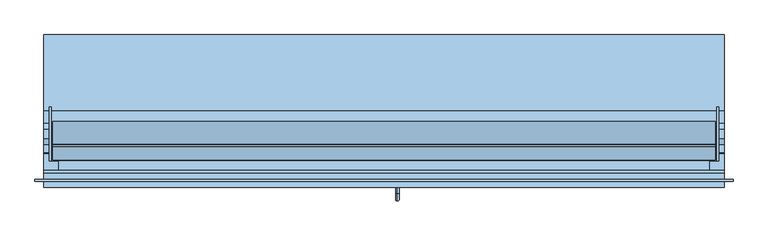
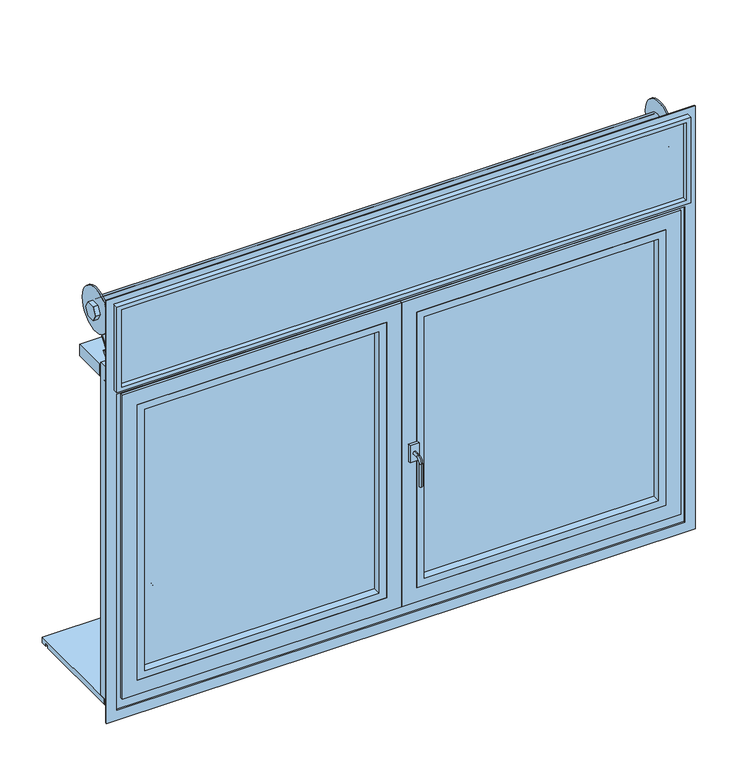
"""IFC4 building model written with IfcOpenShell, lengths in millimetres: window geometry, Ventana monoblock practicable, 2 hojas sin cajon para poner emparchado : CA-02. SALÓN - DORMITORIO SUR."""

from ifc_helpers import new_model, si_unit, point, frame, frame_2d, origin, place, context, project, spatial, polyline, circle_curve, ellipse_curve, trimmed, segment, composite_curve, outline, extrude, faceted_brep, source, transform, mapped, element, save
from ifc_brep_helpers import plane_surface, cylinder_surface, revolved_surface, advanced_brep


def window_6fa71baf(model_context):
    return source(origin(), model_context, "Body", "SolidModel", [
        extrude(outline(polyline([(935.0, -120.0), (935.0, -135.0), (-935.0, -135.0), (-935.0, -120.0), (935.0, -120.0)])), frame((0.0, 0.0, 2050.0), z_axis=(0.0, 0.0, 1.0), x_axis=(1.0, 0.0, 0.0)), (0.0, 0.0, 1.0), 270.0),
        faceted_brep([(-950.0, -110.0, 2335.0), (-950.0, -150.0, 2335.0), (950.0, -150.0, 2335.0), (950.0, -110.0, 2335.0), (-920.0, -120.0, 2305.0), (-920.0, -110.0, 2305.0), (920.0, -110.0, 2305.0), (920.0, -120.0, 2305.0), (-935.0, -150.0, 2320.0), (-935.0, -120.0, 2320.0), (935.0, -120.0, 2320.0), (935.0, -150.0, 2320.0), (950.0, -150.0, 2035.0), (950.0, -110.0, 2035.0), (920.0, -110.0, 2065.0), (920.0, -120.0, 2065.0), (935.0, -120.0, 2050.0), (935.0, -150.0, 2050.0), (-950.0, -150.0, 2035.0), (-950.0, -110.0, 2035.0), (-920.0, -110.0, 2065.0), (-920.0, -120.0, 2065.0), (-935.0, -120.0, 2050.0), (-935.0, -150.0, 2050.0)], [[[0, 1, 2, 3]], [[4, 5, 6, 7]], [[8, 9, 10, 11]], [[3, 2, 12, 13]], [[7, 6, 14, 15]], [[11, 10, 16, 17]], [[13, 12, 18, 19]], [[15, 14, 20, 21]], [[17, 16, 22, 23]], [[19, 18, 1, 0]], [[3, 13, 19, 0], [5, 20, 14, 6]], [[21, 20, 5, 4]], [[9, 22, 16, 10], [7, 15, 21, 4]], [[23, 22, 9, 8]], [[1, 18, 12, 2], [11, 17, 23, 8]]]),
        advanced_brep(
        [(-950.0, -28.8675135, 2230.0), (-950.0, -14.4337567, 2255.0), (-950.0, 14.4337567, 2255.0), (-950.0, 28.8675135, 2230.0), (-950.0, 14.4337567, 2205.0), (-950.0, -14.4337567, 2205.0), (950.0, -28.8675135, 2230.0), (950.0, -14.4337567, 2205.0), (950.0, 14.4337567, 2205.0), (950.0, 28.8675135, 2230.0), (950.0, 14.4337567, 2255.0), (950.0, -14.4337567, 2255.0), (-935.0, -28.8675135, 2230.0), (-935.0, -14.4337567, 2255.0), (935.0, -14.4337567, 2255.0), (935.0, -28.8675135, 2230.0), (930.0, -28.8675135, 2230.0), (930.0, -14.4337567, 2255.0), (-930.0, -14.4337567, 2255.0), (-930.0, -28.8675135, 2230.0), (-935.0, 14.4337567, 2255.0), (935.0, 14.4337567, 2255.0), (930.0, 14.4337567, 2255.0), (-930.0, 14.4337567, 2255.0), (-935.0, 28.8675135, 2230.0), (935.0, 28.8675135, 2230.0), (930.0, 28.8675135, 2230.0), (-930.0, 28.8675135, 2230.0), (-935.0, 14.4337567, 2205.0), (935.0, 14.4337567, 2205.0), (930.0, 14.4337567, 2205.0), (-930.0, 14.4337567, 2205.0), (-935.0, -14.4337567, 2205.0), (935.0, -14.4337567, 2205.0), (930.0, -14.4337567, 2205.0), (-930.0, -14.4337567, 2205.0), (930.0, -75.0, 2230.0), (930.0, 75.0, 2230.0), (935.0, -75.0, 2230.0), (935.0, 75.0, 2230.0), (-935.0, -75.0, 2230.0), (-935.0, 75.0, 2230.0), (-930.0, -75.0, 2230.0), (-930.0, 75.0, 2230.0)],
        [
            (0, 1),
            (1, 2),
            (2, 3),
            (3, 4),
            (4, 5),
            (5, 0),
            (6, 7),
            (7, 8),
            (8, 9),
            (9, 10),
            (10, 11),
            (11, 6),
            (0, 12),
            (12, 13),
            (13, 1),
            (11, 14),
            (14, 15),
            (15, 6),
            (16, 17),
            (17, 18),
            (18, 19),
            (19, 16),
            (13, 20),
            (20, 2),
            (10, 21),
            (21, 14),
            (17, 22),
            (22, 23),
            (23, 18),
            (20, 24),
            (24, 3),
            (9, 25),
            (25, 21),
            (22, 26),
            (26, 27),
            (27, 23),
            (24, 28),
            (28, 4),
            (8, 29),
            (29, 25),
            (26, 30),
            (30, 31),
            (31, 27),
            (28, 32),
            (32, 5),
            (7, 33),
            (33, 29),
            (30, 34),
            (34, 35),
            (35, 31),
            (32, 12),
            (15, 33),
            (34, 16),
            (19, 35),
            (36, 37, circle_curve(frame((930.0, 0.0, 2230.0), z_axis=(-1.0, 0.0, 0.0), x_axis=(0.0, 1.0, 0.0)), 75.0)),
            (37, 36, circle_curve(frame((930.0, 0.0, 2230.0), z_axis=(-1.0, 0.0, 0.0), x_axis=(0.0, 1.0, 0.0)), 75.0)),
            (38, 39, circle_curve(frame((935.0, 0.0, 2230.0), z_axis=(1.0, 0.0, 0.0), x_axis=(0.0, 1.0, 0.0)), 75.0)),
            (39, 38, circle_curve(frame((935.0, 0.0, 2230.0), z_axis=(1.0, 0.0, 0.0), x_axis=(0.0, 1.0, 0.0)), 75.0)),
            (37, 39),
            (38, 36),
            (40, 41, circle_curve(frame((-935.0, 0.0, 2230.0), z_axis=(-1.0, 0.0, 0.0), x_axis=(0.0, 1.0, 0.0)), 75.0)),
            (41, 40, circle_curve(frame((-935.0, 0.0, 2230.0), z_axis=(-1.0, 0.0, 0.0), x_axis=(0.0, 1.0, 0.0)), 75.0)),
            (42, 43, circle_curve(frame((-930.0, 0.0, 2230.0), z_axis=(1.0, 0.0, 0.0), x_axis=(0.0, 1.0, 0.0)), 75.0)),
            (43, 42, circle_curve(frame((-930.0, 0.0, 2230.0), z_axis=(1.0, 0.0, 0.0), x_axis=(0.0, 1.0, 0.0)), 75.0)),
            (41, 43),
            (42, 40),
        ],
        [
            plane_surface(frame((-950.0, -28.8675135, 2230.0), z_axis=(-1.0, 0.0, 0.0), x_axis=(0.0, 0.4999999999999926, 0.8660254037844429))),
            plane_surface(frame((950.0, -28.8675135, 2230.0), z_axis=(1.0, 0.0, 0.0), x_axis=(0.0, -0.4999999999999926, -0.8660254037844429))),
            plane_surface(frame((-950.0, -28.8675135, 2230.0), z_axis=(0.0, -0.8660254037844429, 0.4999999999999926), x_axis=(1.0, 0.0, 0.0))),
            plane_surface(frame((-950.0, -14.4337567, 2255.0), z_axis=(0.0, 0.0, 1.0), x_axis=(1.0, 0.0, 0.0))),
            plane_surface(frame((-950.0, 14.4337567, 2255.0), z_axis=(0.0, 0.8660254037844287, 0.5000000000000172), x_axis=(1.0, 0.0, 0.0))),
            plane_surface(frame((-950.0, 28.8675135, 2230.0), z_axis=(0.0, 0.8660254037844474, -0.49999999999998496), x_axis=(1.0, 0.0, 0.0))),
            plane_surface(frame((-950.0, 14.4337567, 2205.0), z_axis=(0.0, 0.0, -1.0), x_axis=(1.0, 0.0, 0.0))),
            plane_surface(frame((-950.0, -14.4337567, 2205.0), z_axis=(0.0, -0.8660254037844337, -0.5000000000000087), x_axis=(1.0, 0.0, 0.0))),
            plane_surface(frame((930.0, 75.0, 2230.0), z_axis=(-1.0, 0.0, 0.0), x_axis=(0.0, 0.0, -1.0))),
            plane_surface(frame((935.0, 75.0, 2230.0), z_axis=(1.0, 0.0, 0.0), x_axis=(0.0, 0.0, 1.0))),
            cylinder_surface(frame((930.0, 0.0, 2230.0), z_axis=(1.0, 0.0, 0.0), x_axis=(0.0, 1.0, 0.0)), 75.0),
            plane_surface(frame((-935.0, 75.0, 2230.0), z_axis=(-1.0, 0.0, 0.0), x_axis=(0.0, 0.0, -1.0))),
            plane_surface(frame((-930.0, 75.0, 2230.0), z_axis=(1.0, 0.0, 0.0), x_axis=(0.0, 0.0, 1.0))),
            cylinder_surface(frame((-935.0, 0.0, 2230.0), z_axis=(1.0, 0.0, 0.0), x_axis=(0.0, 1.0, 0.0)), 75.0),
        ],
        [
            (0, [[1, 2, 3, 4, 5, 6]]),
            (1, [[7, 8, 9, 10, 11, 12]]),
            (2, [[-1, 13, 14, 15]]),
            (2, [[-12, 16, 17, 18]]),
            (2, [[19, 20, 21, 22]]),
            (3, [[-2, -15, 23, 24]]),
            (3, [[-11, 25, 26, -16]]),
            (3, [[27, 28, 29, -20]]),
            (4, [[-3, -24, 30, 31]]),
            (4, [[-10, 32, 33, -25]]),
            (4, [[34, 35, 36, -28]]),
            (5, [[-4, -31, 37, 38]]),
            (5, [[-9, 39, 40, -32]]),
            (5, [[41, 42, 43, -35]]),
            (6, [[-5, -38, 44, 45]]),
            (6, [[-8, 46, 47, -39]]),
            (6, [[48, 49, 50, -42]]),
            (7, [[-6, -45, 51, -13]]),
            (7, [[-7, -18, 52, -46]]),
            (7, [[53, -22, 54, -49]]),
            (8, [[55, 56], [-19, -53, -48, -41, -34, -27]]),
            (9, [[57, 58], [-17, -26, -33, -40, -47, -52]]),
            (10, [[-56, 59, -57, 60]]),
            (10, [[-55, -60, -58, -59]]),
            (11, [[61, 62], [-14, -51, -44, -37, -30, -23]]),
            (12, [[63, 64], [-21, -29, -36, -43, -50, -54]]),
            (13, [[-62, 65, -63, 66]]),
            (13, [[-61, -66, -64, -65]]),
        ],
    ),
        extrude(outline(composite_curve([segment(trimmed(circle_curve(frame_2d((0.0, 2230.0)), 29.0), [point((22.8709706, 2212.1697251))], [point((0.0, 2201.0))], True, "CARTESIAN"), True, "CONTINUOUS"), segment(polyline([(0.0, 2201.0), (0.0, 2195.0)]), True, "CONTINUOUS"), segment(trimmed(circle_curve(frame_2d((0.0, 2230.0)), 35.0), [point((0.0, 2195.0))], [point((27.6028956, 2208.4807027))], False, "CARTESIAN"), True, "CONTINUOUS"), segment(polyline([(27.6028956, 2208.4807027), (-66.0, 2088.4158643), (-66.0, 1235.0), (-72.0, 1235.0), (-72.0, 2090.4783214), (22.8709706, 2212.1697251)]), True, "CONTINUOUS")], self_intersect=False)), frame((-925.0, 0.0, 0.0), z_axis=(1.0, 0.0, 0.0), x_axis=(0.0, 1.0, 0.0)), (0.0, 0.0, 1.0), 1850.0),
        extrude(outline(polyline([(-950.0, -52.0), (-950.0, 65.0), (950.0, 65.0), (950.0, -52.0), (-950.0, -52.0)])), frame((0.0, 0.0, 2035.0), z_axis=(0.0, 0.0, 1.0), x_axis=(1.0, 0.0, 0.0)), (0.0, 0.0, 1.0), 40.0),
        extrude(outline(polyline([(910.0, -75.0), (910.0, -100.0), (-910.0, -100.0), (-910.0, -75.0), (910.0, -75.0)])), frame((0.0, 0.0, 2025.0), z_axis=(0.0, 0.0, 1.0), x_axis=(1.0, 0.0, 0.0)), (0.0, 0.0, 1.0), 10.0),
        faceted_brep([(-930.0, -77.0, 920.0), (-910.0, -77.0, 920.0), (-910.0, -100.0, 920.0), (-950.0, -100.0, 920.0), (-950.0, -56.0, 920.0), (-910.0, -56.0, 920.0), (-910.0, -61.0, 920.0), (-930.0, -61.0, 920.0), (-930.0, -77.0, 2085.0), (-910.0, -77.0, 2085.0), (-910.0, -100.0, 2085.0), (-950.0, -100.0, 2085.0), (-950.0, -56.0, 2085.0), (-930.0, -56.0, 2085.0), (-910.0, -56.0, 2085.0), (-910.0, -37.5521886, 2108.65752), (-910.0, -41.4951086, 2111.7321553), (-910.0, -61.0, 2086.7190332), (-930.0, -61.0, 2086.7190332), (-930.0, -61.0, 2085.0), (-930.0, -41.4951086, 2111.7321553), (-930.0, -37.5521886, 2108.65752)], [[[0, 1, 2, 3, 4, 5, 6, 7]], [[8, 9, 1, 0]], [[9, 10, 2, 1]], [[10, 11, 3, 2]], [[11, 12, 4, 3]], [[12, 13, 14, 5, 4]], [[6, 5, 14, 15, 16, 17]], [[7, 6, 17, 18, 19]], [[8, 0, 7, 19]], [[13, 12, 11, 10, 9, 8, 19]], [[18, 20, 21, 13, 19]], [[16, 15, 21, 20]], [[17, 16, 20, 18]], [[15, 14, 13, 21]]]),
        faceted_brep([(950.0, -56.0, 920.0), (950.0, -100.0, 920.0), (910.0, -100.0, 920.0), (910.0, -77.0, 920.0), (930.0, -77.0, 920.0), (930.0, -61.0, 920.0), (910.0, -61.0, 920.0), (910.0, -56.0, 920.0), (950.0, -56.0, 2085.0), (950.0, -100.0, 2085.0), (910.0, -100.0, 2085.0), (910.0, -77.0, 2085.0), (930.0, -77.0, 2085.0), (930.0, -61.0, 2085.0), (930.0, -61.0, 2086.7190332), (910.0, -61.0, 2086.7190332), (910.0, -41.4951086, 2111.7321553), (910.0, -37.5521886, 2108.65752), (910.0, -56.0, 2085.0), (930.0, -56.0, 2085.0), (930.0, -37.5521886, 2108.65752), (930.0, -41.4951086, 2111.7321553)], [[[0, 1, 2, 3, 4, 5, 6, 7]], [[8, 9, 1, 0]], [[9, 10, 2, 1]], [[10, 11, 3, 2]], [[11, 12, 4, 3]], [[4, 12, 13, 5]], [[6, 5, 13, 14, 15]], [[7, 6, 15, 16, 17, 18]], [[19, 8, 0, 7, 18]], [[12, 11, 10, 9, 8, 19, 13]], [[19, 20, 21, 14, 13]], [[21, 20, 17, 16]], [[14, 21, 16, 15]], [[20, 19, 18, 17]]]),
        advanced_brep(
        [(-768.0, -34.0, 1255.0), (-782.0, -34.0, 1255.0), (-765.5, -66.0, 1255.0), (-784.5, -66.0, 1255.0)],
        [
            (0, 1, circle_curve(frame((-775.0, -34.0, 1255.0), z_axis=(0.0, 1.0, 0.0), x_axis=(1.0, 0.0, 0.0)), 7.0)),
            (1, 0, circle_curve(frame((-775.0, -34.0, 1255.0), z_axis=(0.0, 1.0, 0.0), x_axis=(-1.0, 0.0, 0.0)), 7.0)),
            (2, 3, circle_curve(frame((-775.0, -66.0, 1255.0), z_axis=(0.0, -1.0, 0.0), x_axis=(-1.0, 0.0, 0.0)), 9.5)),
            (3, 2, circle_curve(frame((-775.0, -66.0, 1255.0), z_axis=(0.0, -1.0, 0.0), x_axis=(1.0, 0.0, 0.0)), 9.5)),
            (3, 1),
            (0, 2),
        ],
        [
            plane_surface(frame((-775.0, -34.0, 1255.0), z_axis=(0.0, 1.0, 0.0), x_axis=(0.0, 0.0, 1.0))),
            plane_surface(frame((-775.0, -66.0, 1255.0), z_axis=(0.0, -1.0, 0.0), x_axis=(0.0, 0.0, 1.0))),
            revolved_surface(polyline([(-768.0, -33.99999999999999, 1255.0), (-765.5, -66.0, 1255.0)]), (-775.0, 55.6, 1255.0), (0.0, -1.0, 0.0)),
            revolved_surface(polyline([(-782.0, -33.99999999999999, 1255.0), (-784.5, -66.0, 1255.0)]), (-775.0, 55.6, 1255.0), (0.0, -1.0, 0.0)),
        ],
        [
            (0, [[1, 2]]),
            (1, [[3, 4]]),
            (2, [[-4, 5, -1, 6]]),
            (3, [[-3, -6, -2, -5]]),
        ],
    ),
        advanced_brep(
        [(768.0, -34.0, 1255.0), (782.0, -34.0, 1255.0), (765.5, -66.0, 1255.0), (784.5, -66.0, 1255.0)],
        [
            (0, 1, circle_curve(frame((775.0, -34.0, 1255.0), z_axis=(0.0, 1.0, 0.0), x_axis=(-1.0, 0.0, 0.0)), 7.0)),
            (1, 0, circle_curve(frame((775.0, -34.0, 1255.0), z_axis=(0.0, 1.0, 0.0), x_axis=(1.0, 0.0, 0.0)), 7.0)),
            (2, 3, circle_curve(frame((775.0, -66.0, 1255.0), z_axis=(0.0, -1.0, 0.0), x_axis=(1.0, 0.0, 0.0)), 9.5)),
            (3, 2, circle_curve(frame((775.0, -66.0, 1255.0), z_axis=(0.0, -1.0, 0.0), x_axis=(-1.0, 0.0, 0.0)), 9.5)),
            (2, 0),
            (1, 3),
        ],
        [
            plane_surface(frame((775.0, -34.0, 1255.0), z_axis=(0.0, 1.0, 0.0), x_axis=(0.0, 0.0, -1.0))),
            plane_surface(frame((775.0, -66.0, 1255.0), z_axis=(0.0, -1.0, 0.0), x_axis=(0.0, 0.0, -1.0))),
            revolved_surface(polyline([(782.0, -33.99999999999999, 1255.0), (784.5, -66.0, 1255.0)]), (775.0, 55.6, 1255.0), (0.0, -1.0, 0.0)),
            revolved_surface(polyline([(768.0, -33.99999999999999, 1255.0), (765.5, -66.0, 1255.0)]), (775.0, 55.6, 1255.0), (0.0, -1.0, 0.0)),
        ],
        [
            (0, [[1, 2]]),
            (1, [[3, 4]]),
            (2, [[-3, 5, -2, 6]]),
            (3, [[-4, -6, -1, -5]]),
        ],
    ),
        extrude(outline(polyline([(277.5, 920.0), (277.5, 900.0), (257.5, 900.0), (257.5, 910.0), (247.5, 910.0), (247.5, 900.0), (-77.5, 900.0), (-77.5, 920.0), (277.5, 920.0)])), frame((-950.0, 0.0, 0.0), z_axis=(1.0, 0.0, 0.0), x_axis=(0.0, 1.0, 0.0)), (0.0, 0.0, 1.0), 1900.0),
        advanced_brep(
        [(37.5, -147.5, 1482.5), (37.5, -166.5, 1482.5), (37.5, -166.5, 1472.5), (37.5, -147.5, 1472.5), (37.5, -187.5, 1461.5), (37.5, -177.5, 1461.5), (37.5, -187.5, 1382.5), (37.5, -177.5, 1382.5), (52.5, -147.5, 1507.5), (22.5, -147.5, 1507.5), (22.5, -147.5, 1447.5), (52.5, -147.5, 1447.5), (52.5, -137.5, 1507.5), (52.5, -137.5, 1447.5), (22.5, -137.5, 1447.5), (22.5, -137.5, 1507.5)],
        [
            (0, 1),
            (1, 2, circle_curve(frame((37.5, -166.5, 1477.5), z_axis=(0.0, 1.0, 0.0), x_axis=(0.0, 0.0, -1.0)), 5.0)),
            (2, 3),
            (3, 0, circle_curve(frame((37.5, -147.5, 1477.5), z_axis=(0.0, -1.0, 0.0), x_axis=(0.0, 0.0, -1.0)), 5.0)),
            (0, 3, circle_curve(frame((37.5, -147.5, 1477.5), z_axis=(0.0, -1.0, 0.0), x_axis=(0.0, 0.0, -1.0)), 5.0)),
            (2, 1, circle_curve(frame((37.5, -166.5, 1477.5), z_axis=(0.0, 1.0, 0.0), x_axis=(0.0, 0.0, -1.0)), 5.0)),
            (1, 4, circle_curve(frame((37.5, -166.5, 1461.5), z_axis=(1.0, 0.0, 0.0), x_axis=(0.0, 0.0, 1.0)), 21.0)),
            (4, 5, circle_curve(frame((37.5, -182.5, 1461.5), z_axis=(0.0, 0.0, 1.0), x_axis=(0.0, 1.0, 0.0)), 5.0)),
            (5, 2, circle_curve(frame((37.5, -166.5, 1461.5), z_axis=(-1.0, 0.0, 0.0), x_axis=(0.0, 0.0, 1.0)), 11.0)),
            (5, 4, circle_curve(frame((37.5, -182.5, 1461.5), z_axis=(0.0, 0.0, 1.0), x_axis=(0.0, 1.0, 0.0)), 5.0)),
            (6, 7, circle_curve(frame((37.5, -182.5, 1382.5), z_axis=(0.0, 0.0, -1.0), x_axis=(0.0, 1.0, 0.0)), 5.0)),
            (7, 6, circle_curve(frame((37.5, -182.5, 1382.5), z_axis=(0.0, 0.0, -1.0), x_axis=(0.0, 1.0, 0.0)), 5.0)),
            (4, 6),
            (7, 5),
            (8, 9),
            (9, 10),
            (10, 11),
            (11, 8),
            (12, 13),
            (13, 14),
            (14, 15),
            (15, 12),
            (8, 12),
            (15, 9),
            (14, 10),
            (13, 11),
        ],
        [
            cylinder_surface(frame((37.5, -147.5, 1477.5), z_axis=(0.0, 1.0, 0.0), x_axis=(0.0, 0.0, -1.0)), 5.0),
            revolved_surface(trimmed(ellipse_curve(frame((37.5, -166.5, 1477.5), z_axis=(0.0, 1.0, 0.0), x_axis=(0.0, 0.0, -1.0)), 5.0, 5.0), [point((37.5, -166.5, 1482.5))], [point((37.5, -166.5, 1472.5))], True, "CARTESIAN"), (37.5, -166.5, 1461.5), (1.0, 0.0, 0.0)),
            revolved_surface(trimmed(ellipse_curve(frame((37.5, -166.5, 1477.5), z_axis=(0.0, 1.0, 0.0), x_axis=(0.0, 0.0, -1.0)), 5.0, 5.0), [point((37.5, -166.5, 1472.5))], [point((37.5, -166.5, 1482.5))], True, "CARTESIAN"), (37.5, -166.5, 1461.5), (1.0, 0.0, 0.0)),
            plane_surface(frame((37.5, -182.5, 1382.5), z_axis=(0.0, 0.0, -1.0), x_axis=(1.0, 0.0, 0.0))),
            cylinder_surface(frame((37.5, -182.5, 1461.5), z_axis=(0.0, 0.0, 1.0), x_axis=(0.0, 1.0, 0.0)), 5.0),
            plane_surface(frame((22.5, -147.5, 1507.5), z_axis=(0.0, -1.0, 0.0), x_axis=(-1.0, 0.0, 0.0))),
            plane_surface(frame((22.5, -137.5, 1507.5), z_axis=(0.0, 1.0, 0.0), x_axis=(1.0, 0.0, 0.0))),
            plane_surface(frame((52.5, -147.5, 1507.5), z_axis=(0.0, 0.0, 1.0), x_axis=(0.0, 1.0, 0.0))),
            plane_surface(frame((22.5, -147.5, 1507.5), z_axis=(-1.0, 0.0, 0.0), x_axis=(0.0, 1.0, 0.0))),
            plane_surface(frame((22.5, -147.5, 1447.5), z_axis=(0.0, 0.0, -1.0), x_axis=(0.0, 1.0, 0.0))),
            plane_surface(frame((52.5, -147.5, 1447.5), z_axis=(1.0, 0.0, 0.0), x_axis=(0.0, 1.0, 0.0))),
        ],
        [
            (0, [[1, 2, 3, 4]]),
            (0, [[-1, 5, -3, 6]]),
            (1, [[-2, 7, 8, 9]]),
            (2, [[-6, -9, 10, -7]]),
            (3, [[11, 12]]),
            (4, [[-8, 13, -12, 14]]),
            (4, [[-10, -14, -11, -13]]),
            (5, [[15, 16, 17, 18], [-4, -5]]),
            (6, [[19, 20, 21, 22]]),
            (7, [[-15, 23, -22, 24]]),
            (8, [[-16, -24, -21, 25]]),
            (9, [[-17, -25, -20, 26]]),
            (10, [[-18, -26, -19, -23]]),
        ],
    ),
        faceted_brep([(950.0, -77.5, 2035.0), (950.0, -127.5, 2035.0), (950.0, -127.5, 900.0), (950.0, -77.5, 900.0), (-950.0, -127.5, 2035.0), (-950.0, -127.5, 900.0), (915.0, -127.5, 2000.0), (915.0, -127.5, 955.0), (-915.0, -127.5, 955.0), (-915.0, -127.5, 2000.0), (-950.0, -77.5, 900.0), (-950.0, -77.5, 2035.0), (890.0, -77.5, 980.0), (890.0, -77.5, 1975.0), (-890.0, -77.5, 1975.0), (-890.0, -77.5, 980.0), (890.0, -87.5, 1975.0), (890.0, -87.5, 980.0), (-890.0, -87.5, 980.0), (915.0, -87.5, 955.0), (915.0, -87.5, 2000.0), (-915.0, -87.5, 2000.0), (-915.0, -87.5, 955.0), (-890.0, -87.5, 1975.0)], [[[0, 1, 2, 3]], [[2, 1, 4, 5], [6, 7, 8, 9]], [[3, 2, 5, 10]], [[0, 3, 10, 11], [12, 13, 14, 15]], [[16, 13, 12, 17]], [[17, 12, 15, 18]], [[19, 20, 21, 22], [16, 17, 18, 23]], [[6, 20, 19, 7]], [[7, 19, 22, 8]], [[18, 15, 14, 23]], [[8, 22, 21, 9]], [[4, 11, 10, 5]], [[1, 0, 11, 4]], [[13, 16, 23, 14]], [[20, 6, 9, 21]]]),
        faceted_brep([(-25.0, -87.5, 980.0), (-35.0, -87.5, 980.0), (-35.0, -77.5, 980.0), (35.0, -77.5, 980.0), (35.0, -87.5, 980.0), (10.0, -87.5, 980.0), (-25.0, -87.5, 1975.0), (-35.0, -87.5, 1975.0), (-35.0, -77.5, 1975.0), (35.0, -77.5, 1975.0), (35.0, -87.5, 1975.0), (10.0, -87.5, 1975.0), (10.0, -87.5, 955.0), (-25.0, -87.5, 955.0), (-62.5, -87.5, 1975.0), (-62.5, -87.5, 2000.0), (10.0, -87.5, 2000.0), (-35.0, -87.5, 1975.0), (-25.0, -127.5, 955.0), (-25.0, -127.5, 1975.0), (10.0, -127.5, 2000.0), (-62.5, -127.5, 2000.0), (-62.5, -127.5, 1975.0), (10.0, -127.5, 955.0)], [[[0, 1, 2, 3, 4, 5]], [[1, 0, 6, 7]], [[2, 1, 7, 8]], [[3, 2, 8, 9]], [[4, 3, 9, 10]], [[5, 4, 10, 11]], [[5, 12, 13, 0]], [[14, 15, 16, 11, 6, 17]], [[18, 19, 6, 0, 13]], [[20, 21, 22, 19, 18, 23]], [[23, 18, 13, 12]], [[20, 23, 12, 5, 11, 16]], [[11, 10, 9, 8, 7, 6]], [[21, 20, 16, 15]], [[22, 21, 15, 14]], [[22, 14, 17, 6, 19]]]),
        extrude(outline(polyline([(-60.0, -97.5), (-60.0, -111.5), (-865.0, -111.5), (-865.0, -97.5), (-60.0, -97.5)])), frame((0.0, 0.0, 1005.0), z_axis=(0.0, 0.0, 1.0), x_axis=(1.0, 0.0, 0.0)), (0.0, 0.0, 1.0), 945.0),
        extrude(outline(polyline([(865.0, -97.5), (865.0, -111.5), (60.0, -111.5), (60.0, -97.5), (865.0, -97.5)])), frame((0.0, 0.0, 1005.0), z_axis=(0.0, 0.0, 1.0), x_axis=(1.0, 0.0, 0.0)), (0.0, 0.0, 1.0), 945.0),
        faceted_brep([(-75.0, -97.5, 1935.0), (-75.0, -87.5, 1935.0), (-75.0, -87.5, 1020.0), (-75.0, -97.5, 1020.0), (-25.0, -87.5, 1985.0), (-25.0, -87.5, 970.0), (-900.0, -87.5, 970.0), (-900.0, -87.5, 1985.0), (-850.0, -87.5, 1935.0), (-850.0, -87.5, 1020.0), (-850.0, -97.5, 1020.0), (-875.0, -97.5, 1960.0), (-875.0, -97.5, 995.0), (-50.0, -97.5, 995.0), (-50.0, -97.5, 1960.0), (-850.0, -97.5, 1935.0), (-50.0, -137.5, 1960.0), (-50.0, -137.5, 995.0), (-875.0, -137.5, 995.0), (-925.0, -137.5, 2010.0), (-925.0, -137.5, 945.0), (0.0, -137.5, 945.0), (0.0, -137.5, 2010.0), (-875.0, -137.5, 1960.0), (0.0, -127.5, 2010.0), (0.0, -127.5, 945.0), (-925.0, -127.5, 945.0), (-925.0, -127.5, 2010.0), (-900.0, -127.5, 1985.0), (-900.0, -127.5, 970.0), (-25.0, -127.5, 970.0), (-25.0, -127.5, 1985.0)], [[[0, 1, 2, 3]], [[4, 5, 6, 7], [8, 9, 2, 1]], [[3, 2, 9, 10]], [[11, 12, 13, 14], [0, 3, 10, 15]], [[16, 14, 13, 17]], [[17, 13, 12, 18]], [[19, 20, 21, 22], [16, 17, 18, 23]], [[24, 22, 21, 25]], [[25, 21, 20, 26]], [[24, 25, 26, 27], [28, 29, 30, 31]], [[4, 31, 30, 5]], [[5, 30, 29, 6]], [[10, 9, 8, 15]], [[18, 12, 11, 23]], [[26, 20, 19, 27]], [[6, 29, 28, 7]], [[15, 8, 1, 0]], [[23, 11, 14, 16]], [[27, 19, 22, 24]], [[7, 28, 31, 4]]]),
        extrude(outline(polyline([(1960.0, -875.0), (995.0, -875.0), (995.0, -50.0), (1960.0, -50.0), (1960.0, -875.0)]), holes=[polyline([(1935.0, -75.0), (1020.0, -75.0), (1020.0, -850.0), (1935.0, -850.0), (1935.0, -75.0)])]), frame((0.0, -137.5, 0.0), z_axis=(0.0, 1.0, 0.0), x_axis=(0.0, 0.0, 1.0)), (0.0, 0.0, 1.0), 26.0),
        extrude(outline(polyline([(1960.0, 50.0), (995.0, 50.0), (995.0, 875.0), (1960.0, 875.0), (1960.0, 50.0)]), holes=[polyline([(1935.0, 850.0), (1020.0, 850.0), (1020.0, 75.0), (1935.0, 75.0), (1935.0, 850.0)])]), frame((0.0, -137.5, 0.0), z_axis=(0.0, 1.0, 0.0), x_axis=(0.0, 0.0, 1.0)), (0.0, 0.0, 1.0), 26.0),
        faceted_brep([(25.0, -127.5, 1985.0), (25.0, -87.5, 1985.0), (25.0, -87.5, 970.0), (25.0, -127.5, 970.0), (900.0, -87.5, 1985.0), (900.0, -87.5, 970.0), (75.0, -87.5, 1935.0), (75.0, -87.5, 1020.0), (850.0, -87.5, 1020.0), (850.0, -87.5, 1935.0), (900.0, -127.5, 970.0), (925.0, -127.5, 2010.0), (925.0, -127.5, 945.0), (0.0, -127.5, 945.0), (0.0, -127.5, 2010.0), (900.0, -127.5, 1985.0), (0.0, -137.5, 2010.0), (0.0, -137.5, 945.0), (925.0, -137.5, 945.0), (925.0, -137.5, 2010.0), (875.0, -137.5, 1960.0), (875.0, -137.5, 995.0), (50.0, -137.5, 995.0), (50.0, -137.5, 1960.0), (75.0, -97.5, 1935.0), (75.0, -97.5, 1020.0), (50.0, -97.5, 1960.0), (50.0, -97.5, 995.0), (875.0, -97.5, 995.0), (875.0, -97.5, 1960.0), (850.0, -97.5, 1935.0), (850.0, -97.5, 1020.0)], [[[0, 1, 2, 3]], [[4, 5, 2, 1], [6, 7, 8, 9]], [[3, 2, 5, 10]], [[11, 12, 13, 14], [0, 3, 10, 15]], [[16, 14, 13, 17]], [[17, 13, 12, 18]], [[16, 17, 18, 19], [20, 21, 22, 23]], [[6, 24, 25, 7]], [[26, 27, 28, 29], [30, 31, 25, 24]], [[7, 25, 31, 8]], [[10, 5, 4, 15]], [[18, 12, 11, 19]], [[8, 31, 30, 9]], [[28, 21, 20, 29]], [[27, 22, 21, 28]], [[26, 23, 22, 27]], [[15, 4, 1, 0]], [[19, 11, 14, 16]], [[9, 30, 24, 6]], [[29, 20, 23, 26]]]),
        extrude(outline(polyline([(2355.0, 975.0), (2355.0, -975.0), (875.0, -975.0), (875.0, 975.0), (2355.0, 975.0)]), holes=[polyline([(910.0, -940.0), (2015.0, -940.0), (2015.0, 940.0), (910.0, 940.0), (910.0, -940.0)]), polyline([(2320.0, -940.0), (2320.0, 940.0), (2050.0, 940.0), (2050.0, -940.0), (2320.0, -940.0)])]), frame((0.0, -132.5, 0.0), z_axis=(0.0, 1.0, 0.0), x_axis=(0.0, 0.0, 1.0)), (0.0, 0.0, 1.0), 5.0),
    ])


if __name__ == "__main__":
    model = new_model("IFC4")
    model_context = context("Model", 3, world=origin())
    ifc_project = project(units=[si_unit("LENGTHUNIT", "METRE", prefix="MILLI")], contexts=[model_context])
    site = spatial("IfcSite", under=ifc_project)
    building = spatial("IfcBuilding", under=site)
    placement = place(None, origin())
    window_shape = window_6fa71baf(model_context)
    element("IfcWindow", 1, ObjectType="Ventana monoblock practicable, 2 hojas sin cajon para poner emparchado : CA-02. SALÓN - DORMITORIO SUR", at=placement, inside=building, context=model_context, shape_type="MappedRepresentation", body=[
        mapped(window_shape, transform((0.0, 0.0, 0.0), x_axis=(1.0, 0.0, 0.0), y_axis=(0.0, 1.0, 0.0), z_axis=(0.0, 0.0, 1.0))),
    ])
    save(model, "model.ifc")
